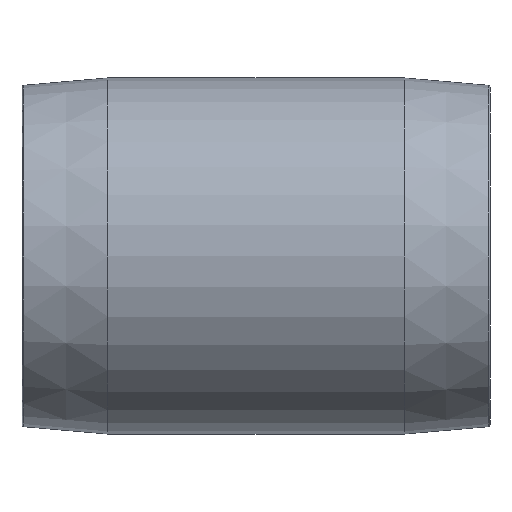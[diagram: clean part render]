
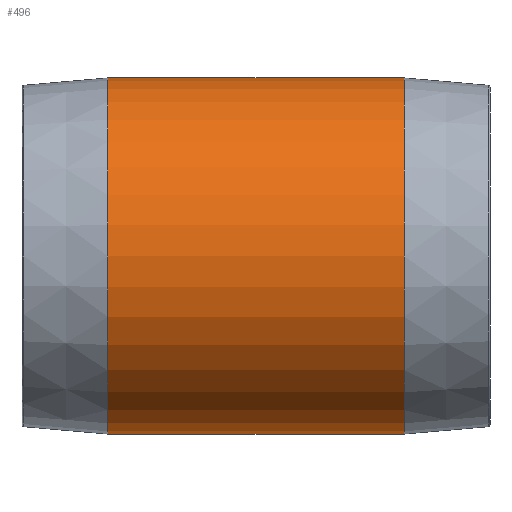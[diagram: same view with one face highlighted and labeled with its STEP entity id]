
A CAD part, front view. The second image highlights one B-rep face of the part: STEP entity #496.
In plain terms, the highlighted cylindrical face has radius 45.65 mm (diameter 91.3 mm), a partial arc.
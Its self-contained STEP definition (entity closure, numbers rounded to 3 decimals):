
#34 = VECTOR ( 'NONE', #1446, 1000. ) ;
#58 = EDGE_CURVE ( 'NONE', #312, #2168, #1238, .T. ) ;
#242 = CARTESIAN_POINT ( 'NONE',  ( 98., 0., 45.65 ) ) ;
#312 = VERTEX_POINT ( 'NONE', #2390 ) ;
#385 = DIRECTION ( 'NONE',  ( 1., 0., 0. ) ) ;
#496 = ADVANCED_FACE ( 'NONE', ( #1632 ), #931, .T. ) ;
#501 = CARTESIAN_POINT ( 'NONE',  ( 98., 0., -45.65 ) ) ;
#629 = DIRECTION ( 'NONE',  ( 0., 0., -1. ) ) ;
#634 = CARTESIAN_POINT ( 'NONE',  ( 120., 0., -45.65 ) ) ;
#753 = EDGE_LOOP ( 'NONE', ( #1452, #2428, #1400, #1516 ) ) ;
#806 = DIRECTION ( 'NONE',  ( 1., 0., 0. ) ) ;
#850 = VERTEX_POINT ( 'NONE', #501 ) ;
#875 = AXIS2_PLACEMENT_3D ( 'NONE', #1436, #385, #629 ) ;
#916 = CARTESIAN_POINT ( 'NONE',  ( 22., 0., 0. ) ) ;
#931 = CYLINDRICAL_SURFACE ( 'NONE', #1763, 45.65 ) ;
#1107 = CARTESIAN_POINT ( 'NONE',  ( 120., 0., 0. ) ) ;
#1138 = EDGE_CURVE ( 'NONE', #2168, #850, #1448, .T. ) ;
#1238 = LINE ( 'NONE', #2886, #34 ) ;
#1400 = ORIENTED_EDGE ( 'NONE', *, *, #1489, .T. ) ;
#1436 = CARTESIAN_POINT ( 'NONE',  ( 98., 0., 0. ) ) ;
#1446 = DIRECTION ( 'NONE',  ( 1., 0., 0. ) ) ;
#1448 = CIRCLE ( 'NONE', #875, 45.65 ) ;
#1452 = ORIENTED_EDGE ( 'NONE', *, *, #58, .F. ) ;
#1489 = EDGE_CURVE ( 'NONE', #1798, #850, #2823, .T. ) ;
#1516 = ORIENTED_EDGE ( 'NONE', *, *, #1138, .F. ) ;
#1625 = VECTOR ( 'NONE', #806, 1000. ) ;
#1632 = FACE_OUTER_BOUND ( 'NONE', #753, .T. ) ;
#1750 = CIRCLE ( 'NONE', #2207, 45.65 ) ;
#1761 = DIRECTION ( 'NONE',  ( 0., 0., -1. ) ) ;
#1763 = AXIS2_PLACEMENT_3D ( 'NONE', #1107, #2047, #1761 ) ;
#1785 = DIRECTION ( 'NONE',  ( 0., 0., -1. ) ) ;
#1798 = VERTEX_POINT ( 'NONE', #2154 ) ;
#1807 = DIRECTION ( 'NONE',  ( 1., 0., 0. ) ) ;
#2047 = DIRECTION ( 'NONE',  ( 1., 0., 0. ) ) ;
#2154 = CARTESIAN_POINT ( 'NONE',  ( 22., 0., -45.65 ) ) ;
#2168 = VERTEX_POINT ( 'NONE', #242 ) ;
#2207 = AXIS2_PLACEMENT_3D ( 'NONE', #916, #1807, #1785 ) ;
#2248 = EDGE_CURVE ( 'NONE', #312, #1798, #1750, .T. ) ;
#2390 = CARTESIAN_POINT ( 'NONE',  ( 22., 0., 45.65 ) ) ;
#2428 = ORIENTED_EDGE ( 'NONE', *, *, #2248, .T. ) ;
#2823 = LINE ( 'NONE', #634, #1625 ) ;
#2886 = CARTESIAN_POINT ( 'NONE',  ( 120., 0., 45.65 ) ) ;
